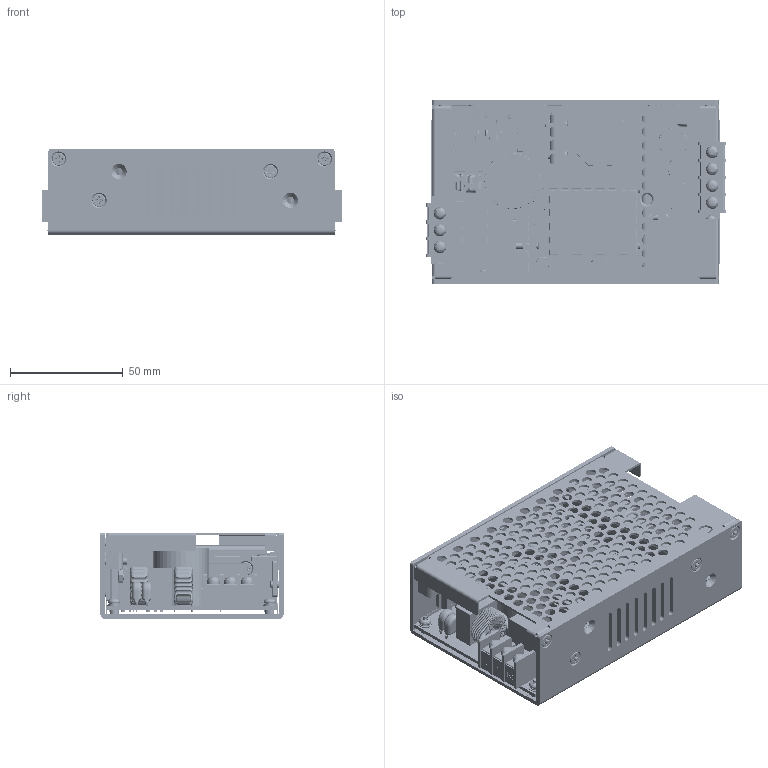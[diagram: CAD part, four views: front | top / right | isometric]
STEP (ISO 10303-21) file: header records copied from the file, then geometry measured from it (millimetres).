
FILE_DESCRIPTION(/* description */ (''),/* implementation_level */ '2;1');
FILE_NAME(/* name */ 'D:\Inventor\3D Files\200508\AQF120E.stp',/* time_stamp */ '2020-04-23T16:21:33+08:00',/* author */ ('peter'),/* organization */ (''),/* preprocessor_version */ 'ST-DEVELOPER v15.2',/* originating_system */ 'Autodesk Inventor 2014',/* authorisation */ '');
FILE_SCHEMA (('AUTOMOTIVE_DESIGN { 1 0 10303 214 3 1 1 }'));
Products named in the file (49): BOT CASE; M3 - 4mm; M3 - 2mm; PCB; X3 HEATSINK; INSULATOR TO-220; I HEATSINK; SCREW PH M3_12 mm; X2 HEATSINK; SCREW PH M3_10 mm; X1 HEATSINK; TO-220FP; TO-220FP_1; SCREW CH_W  M3_8mm; BD1; SCREW PH M3_8mm; M3; VR; INLET 9 mm; INLET 9 mm_1; INLET 9 mm_2; INLET - IN; INLET 9 mm_3; INLET 9 mm_4; INLET 9 mm_5; INLET 9 mm_6; INLET - OUT; LED; L1; L1_1; Y -- C; Y -- C_1; Y -- C_2; Y -- C_3; Y -- C_4; LABEL - 24S; MYLAR - CASE 1; P100 _ 50 X 35 mm; SCREW PH M3_6mm; THREADED CLIP Max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
Bounding box: 133.4 x 81.4 x 38.1 mm (x, y, z)
Volume: 168068.7 mm3; surface area: 171591.4 mm2
Topology: 81 solids, 255 shells, 8588 faces, 17486 edges, 9248 vertices
Faces by surface type: cylinder 3349, torus 2927, plane 1862, bspline 281, cone 152, sphere 17
Full cylindrical faces by diameter (mm): 0.45 x3, 0.5 x1, 0.6 x16, 1.85 x2, 2.459 x27, 3 x18, 3.1 x6, 3.2 x22, 3.5 x7, 4 x11, 4.1 x11, 4.219 x1, 4.5 x227, 4.7 x1, 5.5 x7, 5.8 x18, 6 x2, 6.129 x1, 6.353 x1, 8.825 x1, 8.853 x1, 9.476 x1, 10.037 x1, 10.297 x1, 12.809 x2, 12.995 x1, 19.003 x1, 24.791 x1
Entity records: 221112 total; most frequent: CARTESIAN_POINT 54746, DIRECTION 37450, ORIENTED_EDGE 33450, AXIS2_PLACEMENT_3D 16338, EDGE_CURVE 15328, EDGE_LOOP 9071, VERTEX_POINT 8068, ADVANCED_FACE 7889
